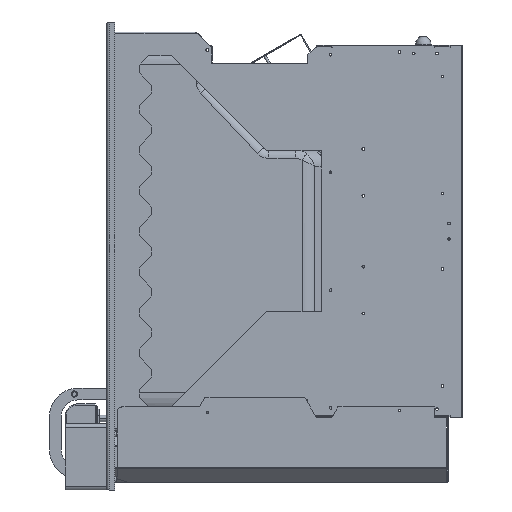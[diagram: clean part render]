
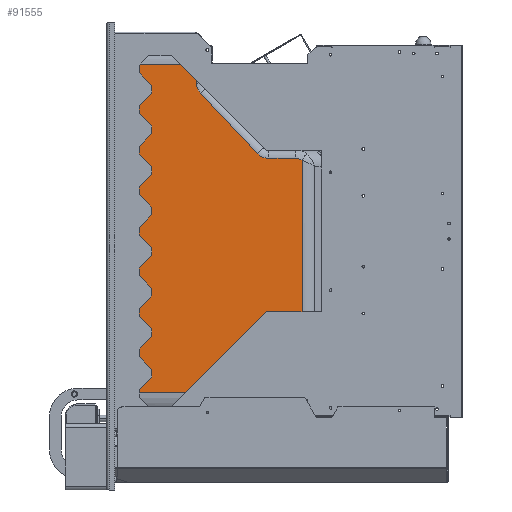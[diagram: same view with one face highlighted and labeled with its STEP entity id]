
A CAD part, left-side view. The second image highlights one B-rep face of the part: STEP entity #91555.
In plain terms, the highlighted planar face has unit normal (-1, 0, 0).
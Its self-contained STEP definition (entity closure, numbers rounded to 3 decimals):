
#323 = AXIS2_PLACEMENT_3D ( 'NONE', #52993, #80892, #41117 ) ;
#393 = VECTOR ( 'NONE', #26689, 1000. ) ;
#1045 = VERTEX_POINT ( 'NONE', #34154 ) ;
#1149 = LINE ( 'NONE', #8119, #27637 ) ;
#1866 = ORIENTED_EDGE ( 'NONE', *, *, #69770, .F. ) ;
#4820 =( BOUNDED_CURVE ( )  B_SPLINE_CURVE ( 3, ( #88038, #13889, #97694, #47242 ),
 .UNSPECIFIED., .F., .F. ) 
 B_SPLINE_CURVE_WITH_KNOTS ( ( 4, 4 ),
 ( 1.571, 2.286 ),
 .UNSPECIFIED. ) 
 CURVE ( )  GEOMETRIC_REPRESENTATION_ITEM ( )  RATIONAL_B_SPLINE_CURVE ( ( 1., 0.958, 0.958, 1. ) ) 
 REPRESENTATION_ITEM ( '' )  );
#5018 = CARTESIAN_POINT ( 'NONE',  ( -111., -3., -523.5 ) ) ;
#6500 = AXIS2_PLACEMENT_3D ( 'NONE', #74596, #99297, #32670 ) ;
#6670 = VERTEX_POINT ( 'NONE', #16564 ) ;
#8119 = CARTESIAN_POINT ( 'NONE',  ( -111., -250.277, -523.5 ) ) ;
#8661 = DIRECTION ( 'NONE',  ( 0., 0., -1. ) ) ;
#9137 = CARTESIAN_POINT ( 'NONE',  ( -111., -139.84, -515.314 ) ) ;
#11040 = AXIS2_PLACEMENT_3D ( 'NONE', #33415, #31287, #89831 ) ;
#12212 = VERTEX_POINT ( 'NONE', #94978 ) ;
#13889 = CARTESIAN_POINT ( 'NONE',  ( -111., -244.814, -183.5 ) ) ;
#16178 = CIRCLE ( 'NONE', #11040, 20. ) ;
#16564 = CARTESIAN_POINT ( 'NONE',  ( -111., -250.277, -483.5 ) ) ;
#20067 = CARTESIAN_POINT ( 'NONE',  ( -111., -274.703, -263.173 ) ) ;
#20200 = EDGE_CURVE ( 'NONE', #12212, #1045, #77578, .T. ) ;
#20213 = PLANE ( 'NONE',  #323 ) ;
#20302 = CARTESIAN_POINT ( 'NONE',  ( -111., 0., -63.5 ) ) ;
#21028 = DIRECTION ( 'NONE',  ( 0., -1., 0. ) ) ;
#21637 = ORIENTED_EDGE ( 'NONE', *, *, #73109, .T. ) ;
#22095 = LINE ( 'NONE', #71033, #82866 ) ;
#25732 = VERTEX_POINT ( 'NONE', #29990 ) ;
#26689 = DIRECTION ( 'NONE',  ( 0., 1., 0. ) ) ;
#27637 = VECTOR ( 'NONE', #8661, 1000. ) ;
#28537 = EDGE_CURVE ( 'NONE', #99006, #6670, #1149, .T. ) ;
#29990 = CARTESIAN_POINT ( 'NONE',  ( -111., -207.8, -183.5 ) ) ;
#31287 = DIRECTION ( 'NONE',  ( 1., 0., 0. ) ) ;
#32670 = DIRECTION ( 'NONE',  ( 0., 0., 1. ) ) ;
#33415 = CARTESIAN_POINT ( 'NONE',  ( -111., -134.77, -86.436 ) ) ;
#34154 = CARTESIAN_POINT ( 'NONE',  ( -111., -3., -483.5 ) ) ;
#36797 = ORIENTED_EDGE ( 'NONE', *, *, #28537, .F. ) ;
#40044 = CARTESIAN_POINT ( 'NONE',  ( -111., -113.393, -63.5 ) ) ;
#41117 = DIRECTION ( 'NONE',  ( 0., 0., -1. ) ) ;
#42832 = CARTESIAN_POINT ( 'NONE',  ( -111., 0., -483.5 ) ) ;
#47242 = CARTESIAN_POINT ( 'NONE',  ( -111., -250.277, -185.953 ) ) ;
#48624 = CARTESIAN_POINT ( 'NONE',  ( -111., -193.284, -177.257 ) ) ;
#49624 = VERTEX_POINT ( 'NONE', #55055 ) ;
#50660 = EDGE_CURVE ( 'NONE', #6670, #1045, #58390, .T. ) ;
#51358 = ORIENTED_EDGE ( 'NONE', *, *, #70082, .F. ) ;
#52841 = DIRECTION ( 'NONE',  ( 0., -0.688, -0.726 ) ) ;
#52993 = CARTESIAN_POINT ( 'NONE',  ( -111., 0., -523.5 ) ) ;
#53398 = ORIENTED_EDGE ( 'NONE', *, *, #69476, .F. ) ;
#54497 = ORIENTED_EDGE ( 'NONE', *, *, #20200, .T. ) ;
#55055 = CARTESIAN_POINT ( 'NONE',  ( -111., -120.253, -100.194 ) ) ;
#55369 = VERTEX_POINT ( 'NONE', #74763 ) ;
#55934 = EDGE_CURVE ( 'NONE', #12212, #62631, #84808, .T. ) ;
#57424 = VECTOR ( 'NONE', #68162, 1000. ) ;
#58390 = LINE ( 'NONE', #42832, #393 ) ;
#59112 = DIRECTION ( 'NONE',  ( 0., -0.058, -0.998 ) ) ;
#59594 = CARTESIAN_POINT ( 'NONE',  ( -111., -114.804, -87.605 ) ) ;
#60660 = VECTOR ( 'NONE', #94236, 1000. ) ;
#62631 = VERTEX_POINT ( 'NONE', #40044 ) ;
#63487 = ORIENTED_EDGE ( 'NONE', *, *, #50660, .F. ) ;
#68162 = DIRECTION ( 'NONE',  ( 0., -1., 0. ) ) ;
#68977 = LINE ( 'NONE', #20067, #94840 ) ;
#69476 = EDGE_CURVE ( 'NONE', #25732, #55369, #22095, .T. ) ;
#69770 = EDGE_CURVE ( 'NONE', #62631, #90990, #83306, .T. ) ;
#69943 = EDGE_LOOP ( 'NONE', ( #75523, #54497, #63487, #36797, #51358, #53398, #104015, #81537, #21637, #1866 ) ) ;
#70082 = EDGE_CURVE ( 'NONE', #55369, #99006, #4820, .T. ) ;
#71033 = CARTESIAN_POINT ( 'NONE',  ( -111., 0., -183.5 ) ) ;
#73109 = EDGE_CURVE ( 'NONE', #49624, #90990, #16178, .T. ) ;
#74596 = CARTESIAN_POINT ( 'NONE',  ( -111., -207.8, -163.5 ) ) ;
#74763 = CARTESIAN_POINT ( 'NONE',  ( -111., -241.584, -183.5 ) ) ;
#75523 = ORIENTED_EDGE ( 'NONE', *, *, #55934, .F. ) ;
#76043 = VECTOR ( 'NONE', #59112, 1000. ) ;
#77456 = EDGE_CURVE ( 'NONE', #25732, #90472, #92356, .T. ) ;
#77578 = LINE ( 'NONE', #5018, #60660 ) ;
#80892 = DIRECTION ( 'NONE',  ( -1., 0., 0. ) ) ;
#81537 = ORIENTED_EDGE ( 'NONE', *, *, #99807, .F. ) ;
#82866 = VECTOR ( 'NONE', #21028, 1000. ) ;
#83306 = LINE ( 'NONE', #9137, #76043 ) ;
#84808 = LINE ( 'NONE', #20302, #57424 ) ;
#88038 = CARTESIAN_POINT ( 'NONE',  ( -111., -241.584, -183.5 ) ) ;
#89831 = DIRECTION ( 'NONE',  ( 0., 0., 1. ) ) ;
#90472 = VERTEX_POINT ( 'NONE', #48624 ) ;
#90990 = VERTEX_POINT ( 'NONE', #59594 ) ;
#91555 = ADVANCED_FACE ( 'NONE', ( #93822 ), #20213, .T. ) ;
#92356 = CIRCLE ( 'NONE', #6500, 20. ) ;
#93822 = FACE_OUTER_BOUND ( 'NONE', #69943, .T. ) ;
#94236 = DIRECTION ( 'NONE',  ( 0., 0., -1. ) ) ;
#94336 = CARTESIAN_POINT ( 'NONE',  ( -111., -250.277, -185.953 ) ) ;
#94840 = VECTOR ( 'NONE', #52841, 1000. ) ;
#94978 = CARTESIAN_POINT ( 'NONE',  ( -111., -3., -63.5 ) ) ;
#97694 = CARTESIAN_POINT ( 'NONE',  ( -111., -247.84, -184.354 ) ) ;
#99006 = VERTEX_POINT ( 'NONE', #94336 ) ;
#99297 = DIRECTION ( 'NONE',  ( 1., 0., 0. ) ) ;
#99807 = EDGE_CURVE ( 'NONE', #49624, #90472, #68977, .T. ) ;
#104015 = ORIENTED_EDGE ( 'NONE', *, *, #77456, .T. ) ;
